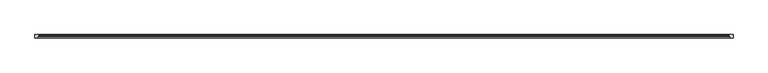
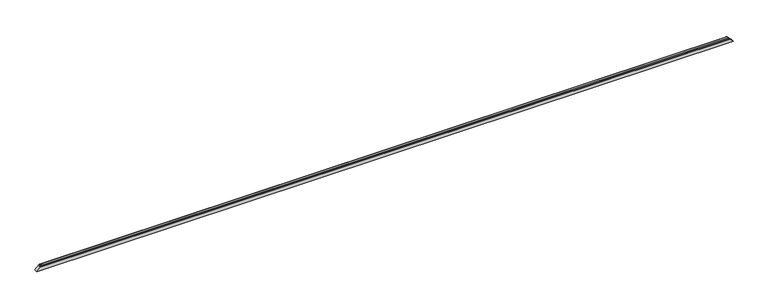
"""IFC4 building model written with IfcOpenShell, lengths in millimetres: proxy geometry, Weiku - Montante - Caixilho 02.2.01.005 : Weiku - Montante - Caixilho 02.2.01.005."""

from ifc_helpers import new_model, si_unit, frame, origin, place, context, project, spatial, ellipse_curve, source, transform, mapped, element, save
from ifc_brep_helpers import plane_surface, cylinder_surface, advanced_brep


def generic_models_03c89aa1(model_context):
    return source(origin(), model_context, "Body", "AdvancedBrep", [
        advanced_brep(
        [(-4951.0, -12.5, 46.0), (4951.0, -12.5, 46.0), (4930.8909676, -12.5, 66.1090324), (-4930.8909676, -12.5, 66.1090324), (-4951.0, -37.8314286, 46.0), (4951.0, -37.8314286, 46.0), (-4948.0, -37.027581, 49.0), (4948.0, -37.027581, 49.0), (-4948.0, -50.0, 49.0), (4948.0, -50.0, 49.0), (4997.0, -50.0, 0.0), (-4997.0, -50.0, 0.0), (-4997.0, 0.0, 0.0), (4997.0, 0.0, 0.0), (-4935.4997332, 0.0, 61.5002668), (4935.4997332, 0.0, 61.5002668), (-4930.118227, -11.4929448, 66.881773), (4930.118227, -11.4929448, 66.881773), (4932.6019557, -2.2235429, 64.3980443), (-4932.6019557, -2.2235429, 64.3980443)],
        [
            (0, 1),
            (1, 2),
            (2, 3),
            (3, 0),
            (4, 5),
            (5, 1),
            (0, 4),
            (6, 7),
            (7, 5),
            (4, 6),
            (8, 9),
            (9, 7),
            (6, 8),
            (10, 9),
            (8, 11),
            (11, 10),
            (11, 12),
            (12, 13),
            (13, 10),
            (12, 14),
            (14, 15),
            (15, 13),
            (16, 17),
            (17, 18),
            (18, 19),
            (19, 16),
            (3, 16, ellipse_curve(frame((-4930.8909676, -11.7, 66.1090324), z_axis=(-0.7071067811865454, 0.0, 0.7071067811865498), x_axis=(-0.7071067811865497, 0.0, -0.7071067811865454)), 1.1313708, 0.8)),
            (19, 14, ellipse_curve(frame((-4935.4997332, -3.0, 61.5002668), z_axis=(-0.7071067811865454, 0.0, 0.7071067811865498), x_axis=(-0.7071067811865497, 0.0, -0.7071067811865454)), 4.2426407, 3.0)),
            (15, 18, ellipse_curve(frame((4935.4997332, -3.0, 61.5002668), z_axis=(0.7071067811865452, 0.0, 0.7071067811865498), x_axis=(-0.7071067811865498, 0.0, 0.7071067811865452)), 4.2426407, 3.0)),
            (17, 2, ellipse_curve(frame((4930.8909676, -11.7, 66.1090324), z_axis=(0.7071067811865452, 0.0, 0.7071067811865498), x_axis=(-0.7071067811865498, 0.0, 0.7071067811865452)), 1.1313708, 0.8)),
        ],
        [
            plane_surface(frame((-4997.0, -12.5, 66.1090324), z_axis=(0.0, -1.0, 0.0), x_axis=(1.0, 0.0, 0.0))),
            plane_surface(frame((-4997.0, -12.5, 46.0), z_axis=(0.0, 0.0, 1.0), x_axis=(1.0, 0.0, 0.0))),
            plane_surface(frame((-4997.0, -37.8314286, 46.0), z_axis=(0.0, 0.9659258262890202, -0.2588190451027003), x_axis=(1.0, 0.0, 0.0))),
            plane_surface(frame((-4997.0, -37.027581, 49.0), z_axis=(0.0, 0.0, 1.0), x_axis=(1.0, 0.0, 0.0))),
            plane_surface(frame((-4997.0, -50.0, 49.0), z_axis=(0.0, -1.0, 0.0), x_axis=(1.0, 0.0, 0.0))),
            plane_surface(frame((-4997.0, -50.0, 0.0), z_axis=(0.0, 0.0, -1.0), x_axis=(1.0, 0.0, 0.0))),
            plane_surface(frame((-4997.0, 0.0, 0.0), z_axis=(0.0, 1.0, 0.0), x_axis=(1.0, 0.0, 0.0))),
            plane_surface(frame((-4997.0, -2.2235429, 64.3980443), z_axis=(0.0, 0.2588190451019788, 0.9659258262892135), x_axis=(1.0, 0.0, 0.0))),
            plane_surface(frame((-5067.0, 15.0, -70.0), z_axis=(-0.7071067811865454, 0.0, 0.7071067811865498), x_axis=(0.0, -1.0, 0.0))),
            plane_surface(frame((4927.0, 15.0, 70.0), z_axis=(0.7071067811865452, 0.0, 0.7071067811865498), x_axis=(0.0, -1.0, 0.0))),
            cylinder_surface(frame((-4997.0, -11.7, 66.1090324), z_axis=(-1.0, 0.0, 0.0), x_axis=(0.0, -1.0, 0.0)), 0.8),
            cylinder_surface(frame((-4997.0, -3.0, 61.5002668), z_axis=(-1.0, 0.0, 0.0), x_axis=(0.0, -1.0, 0.0)), 3.0),
        ],
        [
            (0, [[1, 2, 3, 4]]),
            (1, [[5, 6, -1, 7]]),
            (2, [[8, 9, -5, 10]]),
            (3, [[11, 12, -8, 13]]),
            (4, [[14, -11, 15, 16]]),
            (5, [[17, 18, 19, -16]]),
            (6, [[20, 21, 22, -18]]),
            (7, [[23, 24, 25, 26]]),
            (8, [[27, -26, 28, -20, -17, -15, -13, -10, -7, -4]]),
            (9, [[-6, -9, -12, -14, -19, -22, 29, -24, 30, -2]]),
            (10, [[-3, -30, -23, -27]]),
            (11, [[-25, -29, -21, -28]]),
        ],
    ),
    ])


if __name__ == "__main__":
    model = new_model("IFC4")
    model_context = context("Model", 3, world=origin())
    ifc_project = project(units=[si_unit("LENGTHUNIT", "METRE", prefix="MILLI")], contexts=[model_context])
    site = spatial("IfcSite", under=ifc_project)
    building = spatial("IfcBuilding", under=site)
    placement = place(None, origin())
    generic_models_shape = generic_models_03c89aa1(model_context)
    element("IfcBuildingElementProxy", 1, Name="Weiku - Montante - Caixilho 02.2.01.005 : Weiku - Montante - Caixilho 02.2.01.005", ObjectType="Weiku - Montante - Caixilho 02.2.01.005 : Weiku - Montante - Caixilho 02.2.01.005", at=placement, inside=building, context=model_context, shape_type="MappedRepresentation", body=[
        mapped(generic_models_shape, transform((0.0, 0.0, 0.0), x_axis=(1.0, 0.0, 0.0), y_axis=(0.0, 1.0, 0.0), z_axis=(0.0, 0.0, 1.0))),
    ])
    save(model, "model.ifc")
